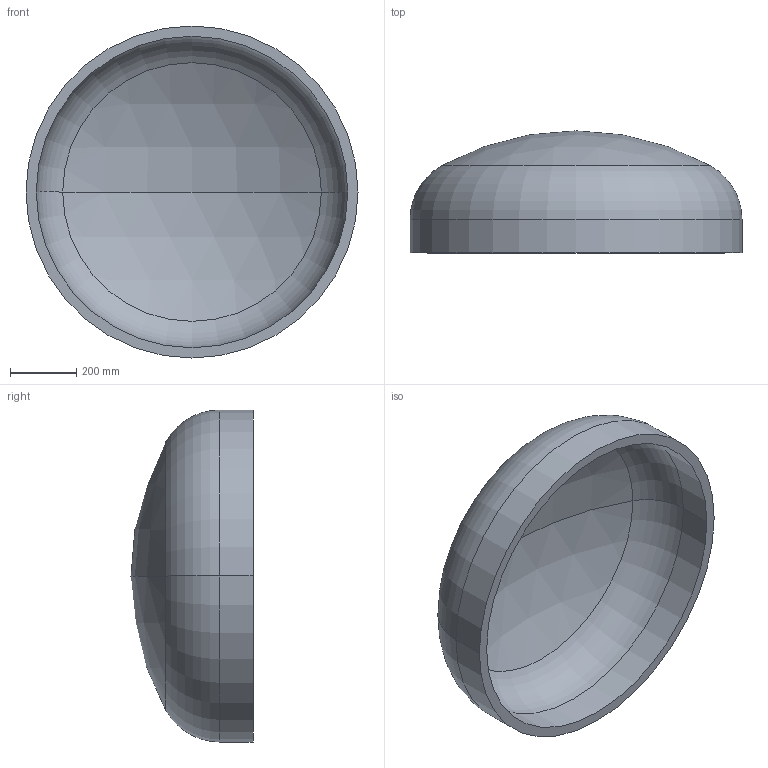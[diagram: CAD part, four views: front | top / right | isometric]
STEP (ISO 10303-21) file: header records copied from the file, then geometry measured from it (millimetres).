
FILE_DESCRIPTION (( 'STEP AP203' ), '1' );
FILE_NAME ('DIN 28013 Korbbogenform_-_Boden DIN 28013 - 1000 x 100 - I - s=31.step', '2016-07-01T08:46:43', ( '' ), ( '' ), 'SwSTEP 2.0', 'SolidWorks 2013', '' );
FILE_SCHEMA (( 'CONFIG_CONTROL_DESIGN' ));
Length unit declared in the file: millimetre
Products named in the file (1): DIN 28013 Korbbogenform_-_Boden DIN 28013 - 1000 x 100 - I - s=31
Bounding box: 1000 x 367.59 x 1000 mm (x, y, z)
Volume: 41862737.8 mm3; surface area: 2797204.1 mm2
Topology: 1 solids, 1 shells, 13 faces, 24 edges, 14 vertices
Faces by surface type: torus 4, cylinder 4, sphere 4, plane 1
Entity records: 407 total; most frequent: DIRECTION 72, CARTESIAN_POINT 52, ORIENTED_EDGE 48, AXIS2_PLACEMENT_3D 34, EDGE_CURVE 24, CIRCLE 20, VERTEX_POINT 14, EDGE_LOOP 14
